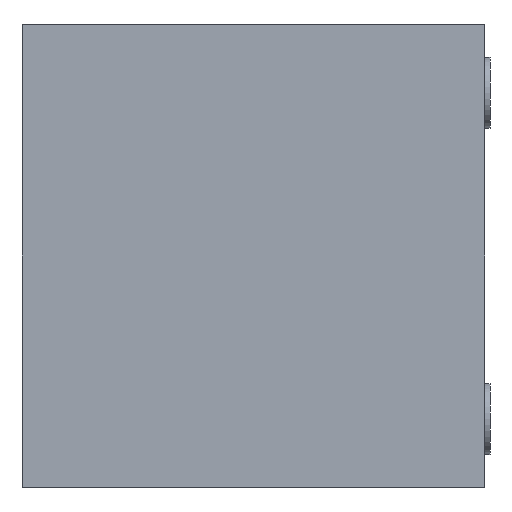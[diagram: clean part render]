
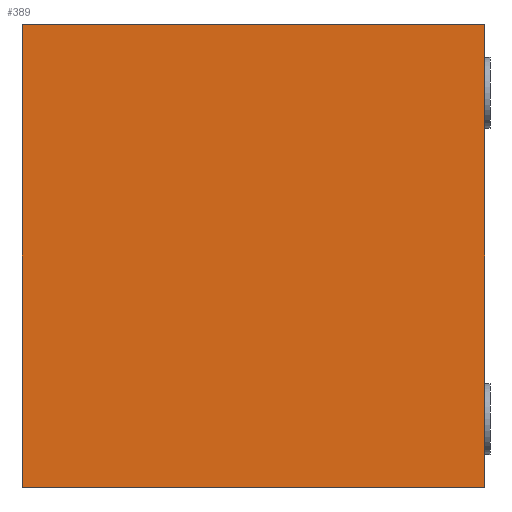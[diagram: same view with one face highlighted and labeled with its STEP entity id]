
A CAD part, left-side view. The second image highlights one B-rep face of the part: STEP entity #389.
In plain terms, the highlighted planar face has unit normal (-1, 0, 0).
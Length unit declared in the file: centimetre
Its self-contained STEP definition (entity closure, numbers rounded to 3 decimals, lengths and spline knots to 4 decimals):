
#16=LINE('',#699,#28);
#17=LINE('',#701,#29);
#18=LINE('',#703,#30);
#19=LINE('',#704,#31);
#28=VECTOR('',#544,17.);
#29=VECTOR('',#545,17.);
#30=VECTOR('',#546,17.);
#31=VECTOR('',#547,17.);
#56=PLANE('',#448);
#109=FACE_OUTER_BOUND('',#156,.T.);
#156=EDGE_LOOP('',(#311,#312,#313,#314));
#228=VERTEX_POINT('',#697);
#229=VERTEX_POINT('',#698);
#230=VERTEX_POINT('',#700);
#231=VERTEX_POINT('',#702);
#262=EDGE_CURVE('',#228,#229,#16,.T.);
#263=EDGE_CURVE('',#228,#230,#17,.T.);
#264=EDGE_CURVE('',#231,#230,#18,.T.);
#265=EDGE_CURVE('',#229,#231,#19,.T.);
#311=ORIENTED_EDGE('',*,*,#262,.F.);
#312=ORIENTED_EDGE('',*,*,#263,.T.);
#313=ORIENTED_EDGE('',*,*,#264,.F.);
#314=ORIENTED_EDGE('',*,*,#265,.F.);
#389=ADVANCED_FACE('',(#109),#56,.T.);
#448=AXIS2_PLACEMENT_3D('',#696,#542,#543);
#542=DIRECTION('center_axis',(-1.,0.,0.));
#543=DIRECTION('ref_axis',(0.,0.,1.));
#544=DIRECTION('',(0.,0.,-1.));
#545=DIRECTION('',(0.,1.,0.));
#546=DIRECTION('',(0.,0.,1.));
#547=DIRECTION('',(0.,1.,0.));
#696=CARTESIAN_POINT('Origin',(-8.5,0.,-8.5));
#697=CARTESIAN_POINT('',(-8.5,0.,8.5));
#698=CARTESIAN_POINT('',(-8.5,0.,-8.5));
#699=CARTESIAN_POINT('',(-8.5,0.,8.5));
#700=CARTESIAN_POINT('',(-8.5,17.,8.5));
#701=CARTESIAN_POINT('',(-8.5,0.,8.5));
#702=CARTESIAN_POINT('',(-8.5,17.,-8.5));
#703=CARTESIAN_POINT('',(-8.5,17.,8.5));
#704=CARTESIAN_POINT('',(-8.5,0.,-8.5));
